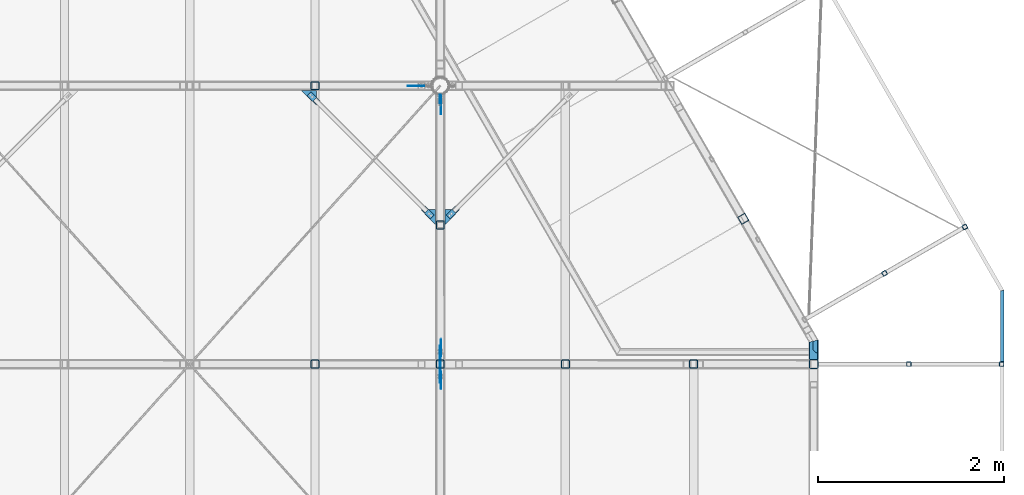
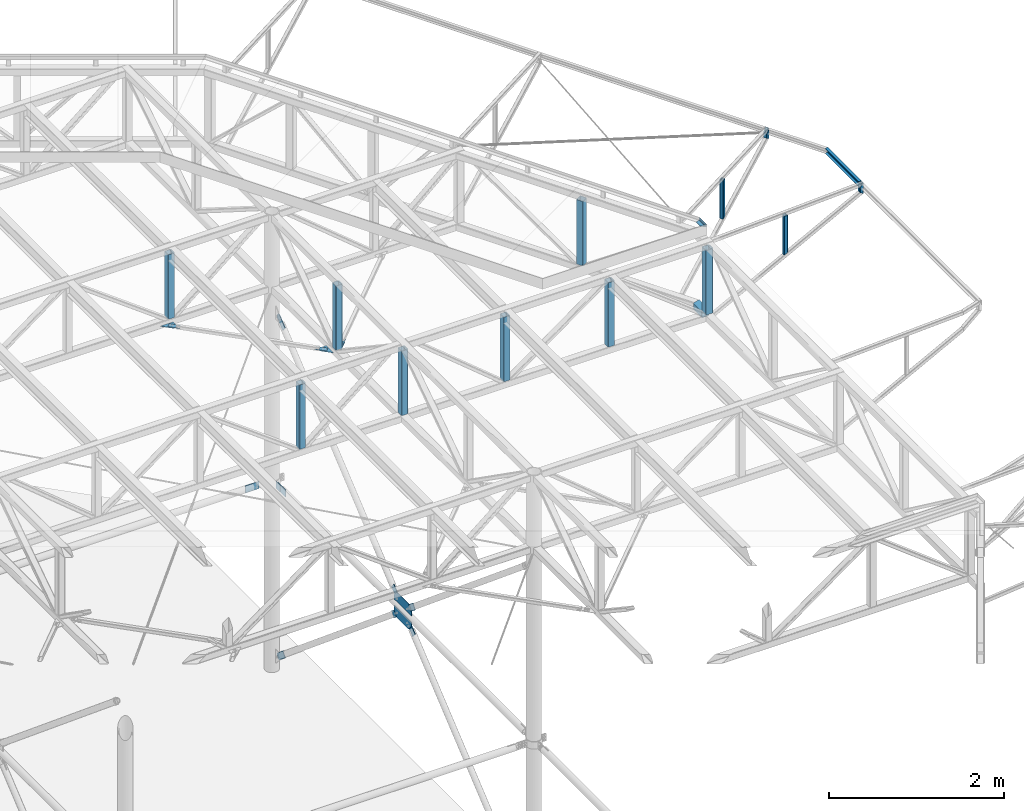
# One storey, part 92 of 132: 32 discrete accessories, 18 elements without a shape of their own.
"""IFC2X3 building model written with IfcOpenShell, lengths in millimetres."""

from ifc_helpers import new_model, si_unit, frame, origin_with_axes, origin_2d_with_axis, place, context, subcontext, project, spatial, polyline, rectangle, hollow_rectangle, l_section, u_section, outline, extrude, boolean, clip, halfspace, material, type_object, element, aggregate, save


model = new_model("IFC2X3")

# Units and contexts
model_context = context("Model", 3, precision=1e-05, world=origin_with_axes())
body_context = subcontext(model_context, "Body", "Model", "MODEL_VIEW")
ifc_project = project(units=[si_unit("LENGTHUNIT", "METRE", prefix="MILLI"), si_unit("AREAUNIT", "SQUARE_METRE"), si_unit("VOLUMEUNIT", "CUBIC_METRE"), si_unit("MASSUNIT", "GRAM", prefix="KILO"), si_unit("TIMEUNIT", "SECOND"), si_unit("PLANEANGLEUNIT", "RADIAN"), si_unit("SOLIDANGLEUNIT", "STERADIAN"), si_unit("THERMODYNAMICTEMPERATUREUNIT", "DEGREE_CELSIUS"), si_unit("LUMINOUSINTENSITYUNIT", "LUMEN")], contexts=[model_context])

# Site, building, storey
site_placement = place(None, origin_with_axes())
site = spatial("IfcSite", under=ifc_project, at=site_placement, Name="Budowa", CompositionType="ELEMENT")
building_placement = place(site_placement, origin_with_axes())
building = spatial("IfcBuilding", under=site, at=building_placement, Name="Undefined", CompositionType="ELEMENT")
storey_placement = place(building_placement, origin_with_axes())
storey = spatial("IfcBuildingStorey", under=building, at=storey_placement, Name="Undefined", CompositionType="ELEMENT", Elevation=0.0)

# Assembly, discrete accessory
assembly_1_placement = place(storey_placement, origin_with_axes())
assembly_1 = element("IfcElementAssembly", 1, at=assembly_1_placement, inside=storey, Name="Steel Assembly", AssemblyPlace="NOTDEFINED", PredefinedType="RIGID_FRAME")
ifc_material = material(Name="STEEL/S235")
discrete_accessory_type_1 = type_object("IfcDiscreteAccessoryType", Name="BLACHA")
discrete_accessory_1_placement = place(assembly_1_placement, frame((20232.9999972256, 17872.0920947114, 10116.0003779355), z_axis=(-1.0, 0.0, 0.0), x_axis=(0.0, -1.0, 0.0)))
discrete_accessory_1 = element("IfcDiscreteAccessory", 2, at=discrete_accessory_1_placement, type_object=discrete_accessory_type_1, material=ifc_material, Name="BLACHA", ObjectType="BL8*100", context=body_context, shape_type="SweptSolid", body=[
    extrude(outline(polyline([(180.0, -50.0), (0.0, -50.0), (0.0, 50.0), (180.0, 50.0), (180.0, -50.0)])), frame((0.0, 0.0, -4.0), z_axis=(0.0, 0.0, 1.0), x_axis=(1.0, 0.0, 0.0)), (0.0, 0.0, 1.0), 8.0),
])

assembly_2_placement = place(storey_placement, origin_with_axes())
assembly_2 = element("IfcElementAssembly", 3, at=assembly_2_placement, inside=storey, Name="Steel Assembly", AssemblyPlace="NOTDEFINED", PredefinedType="RIGID_FRAME")
discrete_accessory_2_placement = place(assembly_2_placement, frame((20224.9999972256, 17902.0043566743, 10066.0003779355), z_axis=(1.0, 0.0, 0.0), x_axis=(0.0, 0.0, 1.0)))
discrete_accessory_2 = element("IfcDiscreteAccessory", 4, at=discrete_accessory_2_placement, type_object=discrete_accessory_type_1, material=ifc_material, Name="BLACHA", ObjectType="BL8*90", context=body_context, shape_type="SweptSolid", body=[
    extrude(outline(polyline([(0.0, 0.0), (100.0, 0.0), (100.0, 89.9122619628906), (0.0, 89.9122619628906), (0.0, 0.0)])), frame((0.0, 0.0, -4.0), z_axis=(0.0, 0.0, 1.0), x_axis=(1.0, 0.0, 0.0)), (0.0, 0.0, 1.0), 8.0),
])
aggregate(assembly_2, [discrete_accessory_2])

assembly_3_placement = place(storey_placement, origin_with_axes())
assembly_3 = element("IfcElementAssembly", 5, at=assembly_3_placement, inside=storey, Name="Steel Assembly", AssemblyPlace="NOTDEFINED", PredefinedType="RIGID_FRAME")
discrete_accessory_3_placement = place(assembly_3_placement, frame((20051.8633056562, 17997.9999994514, 10116.0003779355), z_axis=(0.0, 1.0, 0.0), x_axis=(-1.0, 0.0, 0.0)))
discrete_accessory_3 = element("IfcDiscreteAccessory", 6, at=discrete_accessory_3_placement, type_object=discrete_accessory_type_1, material=ifc_material, Name="BLACHA", ObjectType="BL8*100", context=body_context, shape_type="SweptSolid", body=[
    extrude(outline(polyline([(180.0, -50.0), (0.0, -50.0), (0.0, 50.0), (180.0, 50.0), (180.0, -50.0)])), frame((0.0, 0.0, -4.0), z_axis=(0.0, 0.0, 1.0), x_axis=(1.0, 0.0, 0.0)), (0.0, 0.0, 1.0), 8.0),
])
aggregate(assembly_3, [discrete_accessory_3])

assembly_4_placement = place(storey_placement, origin_with_axes())
assembly_4 = element("IfcElementAssembly", 7, at=assembly_4_placement, inside=storey, Name="Steel Assembly", AssemblyPlace="NOTDEFINED", PredefinedType="RIGID_FRAME")
discrete_accessory_4_placement = place(assembly_4_placement, frame((20232.9999999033, 14913.7701705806, 9988.42276100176), z_axis=(1.0, 0.0, 0.0), x_axis=(0.0, 0.091855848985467, 0.995772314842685)))
discrete_accessory_4 = element("IfcDiscreteAccessory", 8, at=discrete_accessory_4_placement, type_object=discrete_accessory_type_1, material=ifc_material, Name="BLACHA", ObjectType="BL8*86", context=body_context, shape_type="SweptSolid", body=[
    extrude(outline(polyline([(0.0, 0.0), (28.2842712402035, 3.27418092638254e-11), (60.8111839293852, 32.5269126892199), (60.8111839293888, 60.8111839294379), (-59.3969688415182, 181.019332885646), (-120.20815277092, 120.208152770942), (0.0, 0.0)])), frame((0.0, 0.0, -4.0), z_axis=(0.0, 0.0, 1.0), x_axis=(1.0, 0.0, 0.0)), (0.0, 0.0, 1.0), 8.0),
])
aggregate(assembly_4, [discrete_accessory_4])

assembly_5_placement = place(storey_placement, origin_with_axes())
assembly_5 = element("IfcElementAssembly", 9, at=assembly_5_placement, inside=storey, Name="Steel Assembly", AssemblyPlace="NOTDEFINED", PredefinedType="RIGID_FRAME")
discrete_accessory_5_placement = place(assembly_5_placement, frame((20232.9999999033, 15141.2002103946, 10054.562716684), z_axis=(1.0, 0.0, 0.0), x_axis=(0.0, -0.995772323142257, -0.0918557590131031)))
discrete_accessory_5 = element("IfcDiscreteAccessory", 10, at=discrete_accessory_5_placement, type_object=discrete_accessory_type_1, material=ifc_material, Name="BLACHA", ObjectType="BL8*86", context=body_context, shape_type="SweptSolid", body=[
    extrude(outline(polyline([(0.0, 0.0), (28.2842712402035, 3.27418092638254e-11), (60.8111839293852, 32.5269126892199), (60.8111839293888, 60.8111839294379), (-59.3969688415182, 181.019332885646), (-120.20815277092, 120.208152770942), (0.0, 0.0)])), frame((0.0, 0.0, -4.0), z_axis=(0.0, 0.0, 1.0), x_axis=(1.0, 0.0, 0.0)), (0.0, 0.0, 1.0), 8.0),
])

# Discrete accessory
discrete_accessory_6_placement = place(assembly_1_placement, frame((20224.9999992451, 15198.2308805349, 10072.3460259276), z_axis=(1.0, 0.0, 0.0), x_axis=(0.0, -1.0, 0.0)))
discrete_accessory_6 = element("IfcDiscreteAccessory", 11, at=discrete_accessory_6_placement, type_object=discrete_accessory_type_1, material=ifc_material, Name="BLACHA", ObjectType="BL8*133", context=body_context, shape_type="SweptSolid", body=[
    extrude(outline(polyline([(0.0, 0.0), (396.459625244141, 0.0), (396.459625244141, 58.6795501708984), (335.099731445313, 132.510192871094), (61.3598861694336, 132.510192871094), (0.0, 58.6795463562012), (0.0, 0.0)])), frame((0.0, 0.0, -4.0), z_axis=(0.0, 0.0, 1.0), x_axis=(1.0, 0.0, 0.0)), (0.0, 0.0, 1.0), 8.0),
])

# Assembly, discrete accessory
assembly_6_placement = place(storey_placement, origin_with_axes())
assembly_6 = element("IfcElementAssembly", 12, at=assembly_6_placement, inside=storey, Name="Steel Assembly", AssemblyPlace="NOTDEFINED", PredefinedType="RIGID_FRAME")
discrete_accessory_7_placement = place(assembly_6_placement, frame((20233.0000000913, 15086.2326258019, 10243.5779952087), z_axis=(1.0, 0.0, 0.0), x_axis=(0.0, -0.0918558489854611, -0.995772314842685)))
discrete_accessory_7 = element("IfcDiscreteAccessory", 13, at=discrete_accessory_7_placement, type_object=discrete_accessory_type_1, material=ifc_material, Name="BLACHA", ObjectType="BL8*86", context=body_context, shape_type="SweptSolid", body=[
    extrude(outline(polyline([(0.0, 0.0), (28.2842712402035, 3.27418092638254e-11), (60.8111839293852, 32.5269126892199), (60.8111839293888, 60.8111839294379), (-59.3969688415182, 181.019332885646), (-120.20815277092, 120.208152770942), (0.0, 0.0)])), frame((0.0, 0.0, -4.0), z_axis=(0.0, 0.0, 1.0), x_axis=(1.0, 0.0, 0.0)), (0.0, 0.0, 1.0), 8.0),
])

assembly_7_placement = place(storey_placement, origin_with_axes())
assembly_7 = element("IfcElementAssembly", 14, at=assembly_7_placement, inside=storey, Name="Steel Assembly", AssemblyPlace="NOTDEFINED", PredefinedType="RIGID_FRAME")
discrete_accessory_8_placement = place(assembly_7_placement, frame((20233.0000000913, 14858.8013366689, 10177.4380410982), z_axis=(1.0, 0.0, 0.0), x_axis=(0.0, 0.995772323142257, 0.0918557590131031)))
discrete_accessory_8 = element("IfcDiscreteAccessory", 15, at=discrete_accessory_8_placement, type_object=discrete_accessory_type_1, material=ifc_material, Name="BLACHA", ObjectType="BL8*86", context=body_context, shape_type="SweptSolid", body=[
    extrude(outline(polyline([(0.0, 0.0), (28.2842712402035, 3.27418092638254e-11), (60.8111839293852, 32.5269126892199), (60.8111839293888, 60.8111839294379), (-59.3969688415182, 181.019332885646), (-120.20815277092, 120.208152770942), (0.0, 0.0)])), frame((0.0, 0.0, -4.0), z_axis=(0.0, 0.0, 1.0), x_axis=(1.0, 0.0, 0.0)), (0.0, 0.0, 1.0), 8.0),
])
aggregate(assembly_7, [discrete_accessory_8])

# Discrete accessory
discrete_accessory_9_placement = place(assembly_1_placement, frame((20224.9999994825, 14801.7706639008, 10159.6547299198), z_axis=(1.0, 0.0, 0.0), x_axis=(0.0, 1.0, 0.0)))
discrete_accessory_9 = element("IfcDiscreteAccessory", 16, at=discrete_accessory_9_placement, type_object=discrete_accessory_type_1, material=ifc_material, Name="BLACHA", ObjectType="BL8*133", context=body_context, shape_type="SweptSolid", body=[
    extrude(outline(polyline([(0.0, 0.0), (396.460845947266, 0.0), (396.460845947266, 58.6795501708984), (335.100982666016, 132.510192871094), (61.3598861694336, 132.510192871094), (0.0, 58.6795463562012), (0.0, 0.0)])), frame((0.0, 0.0, -4.0), z_axis=(0.0, 0.0, 1.0), x_axis=(1.0, 0.0, 0.0)), (0.0, 0.0, 1.0), 8.0),
])

aggregate(assembly_1, [discrete_accessory_1, discrete_accessory_6, discrete_accessory_9])

discrete_accessory_10_placement = place(assembly_5_placement, frame((20233.0000000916, 17879.0487899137, 7723.25304714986), z_axis=(0.0, 0.639165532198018, 0.76906919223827), x_axis=(0.0, -0.76906919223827, 0.639165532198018)))
discrete_accessory_10 = element("IfcDiscreteAccessory", 17, at=discrete_accessory_10_placement, type_object=discrete_accessory_type_1, material=ifc_material, Name="BLACHA", ObjectType="BL8*86", context=body_context, shape_type="CSG", body=[
    boolean("DIFFERENCE", boolean("DIFFERENCE", extrude(rectangle(XDim=8.0, YDim=86.0, at=origin_2d_with_axis()), frame((190.000000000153, -3.63797880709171e-12, 3.30513394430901e-13), z_axis=(-1.0, 0.0, 0.0), x_axis=(0.0, -1.0, 0.0)), (0.0, 0.0, 1.0), 190.0), extrude(outline(polyline([(0.0, 0.0), (20.0000000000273, -3.63797880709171e-12), (5.45696821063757e-12, 20.0000000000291), (0.0, 0.0)])), frame((3.63797880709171e-12, -6.49999986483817, 43.0), z_axis=(0.0, 1.0, 0.0), x_axis=(1.0, 0.0, 0.0)), (0.0, 0.0, 1.0), 13.0)), extrude(outline(polyline([(0.0, 0.0), (20.0000000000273, -3.63797880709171e-12), (5.45696821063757e-12, 20.0000000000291), (0.0, 0.0)])), frame((0.0, 6.50000013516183, -43.0), z_axis=(0.0, -1.0, 0.0), x_axis=(1.0, 0.0, 0.0)), (0.0, 0.0, 1.0), 13.0)),
])

aggregate(assembly_5, [discrete_accessory_5, discrete_accessory_10])

discrete_accessory_11_placement = place(assembly_6_placement, frame((20233.0000000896, 17879.0487906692, 12508.7467522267), z_axis=(0.0, -0.639165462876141, 0.769069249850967), x_axis=(0.0, -0.769069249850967, -0.639165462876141)))
discrete_accessory_11 = element("IfcDiscreteAccessory", 18, at=discrete_accessory_11_placement, type_object=discrete_accessory_type_1, material=ifc_material, Name="BLACHA", ObjectType="BL8*86", context=body_context, shape_type="CSG", body=[
    boolean("DIFFERENCE", boolean("DIFFERENCE", extrude(rectangle(XDim=8.0, YDim=86.0, at=origin_2d_with_axis()), frame((190.000000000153, -3.63797880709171e-12, 3.30513394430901e-13), z_axis=(-1.0, 0.0, 0.0), x_axis=(0.0, -1.0, 0.0)), (0.0, 0.0, 1.0), 190.0), extrude(outline(polyline([(0.0, 0.0), (20.0000000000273, -3.63797880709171e-12), (5.45696821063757e-12, 20.0000000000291), (0.0, 0.0)])), frame((0.0, 6.50000013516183, -43.0), z_axis=(0.0, -1.0, 0.0), x_axis=(1.0, 0.0, 0.0)), (0.0, 0.0, 1.0), 13.0)), extrude(outline(polyline([(0.0, 0.0), (20.0000000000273, -3.63797880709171e-12), (5.45696821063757e-12, 20.0000000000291), (0.0, 0.0)])), frame((3.63797880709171e-12, -6.49999986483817, 43.0), z_axis=(0.0, 1.0, 0.0), x_axis=(1.0, 0.0, 0.0)), (0.0, 0.0, 1.0), 13.0)),
])

aggregate(assembly_6, [discrete_accessory_7, discrete_accessory_11])

# Assembly, discrete accessory
assembly_8_placement = place(storey_placement, origin_with_axes())
assembly_8 = element("IfcElementAssembly", 19, at=assembly_8_placement, inside=storey, Name="Steel Assembly", AssemblyPlace="NOTDEFINED", PredefinedType="RIGID_FRAME")
discrete_accessory_12_placement = place(assembly_8_placement, frame((20387.9949512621, 16705.4213581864, 12830.0), z_axis=(0.0, 0.0, 1.0), x_axis=(-0.70710678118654, -0.707106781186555, 0.0)))
discrete_accessory_12 = element("IfcDiscreteAccessory", 20, at=discrete_accessory_12_placement, type_object=discrete_accessory_type_1, material=ifc_material, Name="BLACHA", ObjectType="BL6*60", context=body_context, shape_type="SweptSolid", body=[
    extrude(outline(polyline([(0.0, 0.0), (139.99999999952, -6.2755134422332e-10), (139.99999999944, 59.9999999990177), (0.0, 60.0), (-8.00355337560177e-11, 54.9999999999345), (49.9999999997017, 54.9999999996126), (49.9999999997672, 4.99999999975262), (-8.73114913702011e-11, 5.00000000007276), (0.0, 0.0)])), frame((0.0, 0.0, -3.0), z_axis=(0.0, 0.0, 1.0), x_axis=(1.0, 0.0, 0.0)), (0.0, 0.0, 1.0), 6.0),
])
aggregate(assembly_8, [discrete_accessory_12])

assembly_9_placement = place(storey_placement, origin_with_axes())
assembly_9 = element("IfcElementAssembly", 21, at=assembly_9_placement, inside=storey, Name="Steel Assembly", AssemblyPlace="NOTDEFINED", PredefinedType="RIGID_FRAME")
discrete_accessory_13_placement = place(assembly_9_placement, frame((20275.0, 16666.5304833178, 12824.0), z_axis=(0.0, 0.0, 1.0), x_axis=(0.0, -1.0, 0.0)))
discrete_accessory_13 = element("IfcDiscreteAccessory", 22, at=discrete_accessory_13_placement, type_object=discrete_accessory_type_1, material=ifc_material, Name="BLACHA", ObjectType="BL6*117", context=body_context, shape_type="SweptSolid", body=[
    extrude(outline(polyline([(0.0, 0.0), (166.027954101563, 0.0), (49.4974746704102, 116.530487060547), (0.0, 67.0330123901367), (0.0, 0.0)])), frame((0.0, 0.0, -3.0), z_axis=(0.0, 0.0, 1.0), x_axis=(1.0, 0.0, 0.0)), (0.0, 0.0, 1.0), 6.0),
])

assembly_10_placement = place(storey_placement, origin_with_axes())
assembly_10 = element("IfcElementAssembly", 23, at=assembly_10_placement, inside=storey, Name="Steel Assembly", AssemblyPlace="NOTDEFINED", PredefinedType="RIGID_FRAME")
discrete_accessory_14_placement = place(assembly_10_placement, frame((18930.4213581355, 17837.0050487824, 12830.0), z_axis=(0.0, 0.0, 1.0), x_axis=(-0.707106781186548, 0.707106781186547, 0.0)))
discrete_accessory_14 = element("IfcDiscreteAccessory", 24, at=discrete_accessory_14_placement, type_object=discrete_accessory_type_1, material=ifc_material, Name="BLACHA", ObjectType="BL6*60", context=body_context, shape_type="SweptSolid", body=[
    extrude(outline(polyline([(0.0, 0.0), (139.99999999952, -6.2755134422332e-10), (139.99999999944, 59.9999999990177), (0.0, 60.0), (-8.00355337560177e-11, 54.9999999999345), (49.9999999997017, 54.9999999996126), (49.9999999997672, 4.99999999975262), (-8.73114913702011e-11, 5.00000000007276), (0.0, 0.0)])), frame((0.0, 0.0, -3.0), z_axis=(0.0, 0.0, 1.0), x_axis=(1.0, 0.0, 0.0)), (0.0, 0.0, 1.0), 6.0),
])

assembly_11_placement = place(storey_placement, origin_with_axes())
assembly_11 = element("IfcElementAssembly", 25, at=assembly_11_placement, inside=storey, Name="Steel Assembly", AssemblyPlace="NOTDEFINED", PredefinedType="RIGID_FRAME")
discrete_accessory_15_placement = place(assembly_11_placement, frame((18891.530483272, 17950.000000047, 12824.0), z_axis=(0.0, 0.0, 1.0), x_axis=(-1.0, 0.0, 0.0)))
discrete_accessory_15 = element("IfcDiscreteAccessory", 26, at=discrete_accessory_15_placement, type_object=discrete_accessory_type_1, material=ifc_material, Name="BLACHA", ObjectType="BL6*117", context=body_context, shape_type="SweptSolid", body=[
    extrude(outline(polyline([(0.0, 0.0), (166.027954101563, 0.0), (49.4974746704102, 116.530487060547), (0.0, 67.0330123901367), (0.0, 0.0)])), frame((0.0, 0.0, -3.0), z_axis=(0.0, 0.0, 1.0), x_axis=(1.0, 0.0, 0.0)), (0.0, 0.0, 1.0), 6.0),
])

# Discrete accessory
discrete_accessory_16_placement = place(assembly_10_placement, frame((20019.5786418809, 16662.994951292, 12830.0), z_axis=(0.0, 0.0, 1.0), x_axis=(0.707106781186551, -0.707106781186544, 0.0)))
discrete_accessory_16 = element("IfcDiscreteAccessory", 27, at=discrete_accessory_16_placement, type_object=discrete_accessory_type_1, material=ifc_material, Name="BLACHA", ObjectType="BL6*60", context=body_context, shape_type="SweptSolid", body=[
    extrude(outline(polyline([(0.0, 0.0), (139.99999999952, -6.2755134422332e-10), (139.99999999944, 59.9999999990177), (0.0, 60.0), (-8.00355337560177e-11, 54.9999999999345), (49.9999999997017, 54.9999999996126), (49.9999999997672, 4.99999999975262), (-8.73114913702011e-11, 5.00000000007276), (0.0, 0.0)])), frame((0.0, 0.0, -3.0), z_axis=(0.0, 0.0, 1.0), x_axis=(1.0, 0.0, 0.0)), (0.0, 0.0, 1.0), 6.0),
])

aggregate(assembly_10, [discrete_accessory_14, discrete_accessory_16])

discrete_accessory_17_placement = place(assembly_9_placement, frame((20175.0, 16500.502525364, 12824.0), z_axis=(0.0, 0.0, 1.0), x_axis=(0.0, 1.0, 0.0)))
discrete_accessory_17 = element("IfcDiscreteAccessory", 28, at=discrete_accessory_17_placement, type_object=discrete_accessory_type_1, material=ifc_material, Name="BLACHA", ObjectType="BL6*117", context=body_context, shape_type="SweptSolid", body=[
    extrude(outline(polyline([(0.0, 0.0), (166.027954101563, 0.0), (166.027954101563, 67.0330123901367), (116.530487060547, 116.530487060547), (0.0, 0.0)])), frame((0.0, 0.0, -3.0), z_axis=(0.0, 0.0, 1.0), x_axis=(1.0, 0.0, 0.0)), (0.0, 0.0, 1.0), 6.0),
])

# Assembly, discrete accessory
assembly_12_placement = place(storey_placement, origin_with_axes())
assembly_12 = element("IfcElementAssembly", 29, at=assembly_12_placement, inside=storey, Name="Steel Assembly", AssemblyPlace="NOTDEFINED", PredefinedType="RIGID_FRAME")
discrete_accessory_type_2 = type_object("IfcDiscreteAccessoryType", Name="BEAM")
discrete_accessory_18_placement = place(assembly_12_placement, frame((24270.0003571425, 15094.8000000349, 14004.0), z_axis=(-1.0, 0.0, 0.0), x_axis=(0.0, 1.0, 0.0)))
discrete_accessory_18 = element("IfcDiscreteAccessory", 30, at=discrete_accessory_18_placement, type_object=discrete_accessory_type_2, material=ifc_material, Name="BEAM", ObjectType="L60*40*6", context=body_context, shape_type="Clipping", body=[
    clip(clip(extrude(l_section(Depth=60.0, Width=40.0, Thickness=6.0, FilletRadius=6.0, EdgeRadius=3.0, at=origin_2d_with_axis()), frame((192.612563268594, 0.0, 0.0), z_axis=(-1.0, 0.0, 0.0), x_axis=(0.0, -1.0, 0.0)), (0.0, 0.0, 1.0), 191.98), halfspace(frame((151.205719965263, 0.0, 29.99999999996), z_axis=(-0.965927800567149, 0.0, -0.258811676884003), x_axis=(0.0, -1.0, 0.0)), True)), halfspace(frame((58.9999999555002, 0.0, 30.0), z_axis=(-0.768221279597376, 0.0, 0.64018439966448), x_axis=(0.0, -1.0, 0.0)), False)),
])
aggregate(assembly_12, [discrete_accessory_18])

assembly_13_placement = place(storey_placement, origin_with_axes())
assembly_13 = element("IfcElementAssembly", 31, at=assembly_13_placement, inside=storey, Name="Steel Assembly", AssemblyPlace="NOTDEFINED", PredefinedType="RIGID_FRAME")
discrete_accessory_19_placement = place(assembly_13_placement, frame((26280.0003814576, 15025.0000000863, 13945.0050191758), z_axis=(0.0, 0.0, -1.0), x_axis=(0.0, 1.0, 0.0)))
discrete_accessory_19 = element("IfcDiscreteAccessory", 32, at=discrete_accessory_19_placement, type_object=discrete_accessory_type_2, material=ifc_material, Name="BEAM", ObjectType="C70*40*4", context=body_context, shape_type="Clipping", body=[
    clip(extrude(u_section(Depth=70.0, FlangeWidth=40.0, WebThickness=4.0, FlangeThickness=4.0, FilletRadius=6.0, at=origin_2d_with_axis()), frame((773.062307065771, 0.0, 0.0), z_axis=(-1.0, 0.0, 0.0), x_axis=(0.0, -1.0, 0.0)), (0.0, 0.0, 1.0), 773.06), halfspace(frame((773.008721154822, 20.0, 0.0), z_axis=(0.965930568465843, -0.258801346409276, 0.0), x_axis=(0.0, 0.0, -1.0)), False)),
])
aggregate(assembly_13, [discrete_accessory_19])

# Assembly, discrete accessories
assembly_14_placement = place(storey_placement, origin_with_axes())
assembly_14 = element("IfcElementAssembly", 33, at=assembly_14_placement, inside=storey, Name="Steel Assembly", AssemblyPlace="NOTDEFINED", PredefinedType="RIGID_FRAME")
discrete_accessory_20_placement = place(assembly_14_placement, frame((25012.4609035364, 15978.1510362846, 13878.94002838), z_axis=(-0.499969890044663, 0.866042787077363, 0.0), x_axis=(0.0, 0.0, -1.0)))
discrete_accessory_20 = element("IfcDiscreteAccessory", 34, at=discrete_accessory_20_placement, type_object=discrete_accessory_type_2, material=ifc_material, Name="BEAM", ObjectType="SHS50*4", context=body_context, shape_type="Clipping", body=[
    clip(clip(extrude(hollow_rectangle(XDim=50.0, YDim=50.0, WallThickness=4.0, InnerFilletRadius=4.0, OuterFilletRadius=8.0, at=origin_2d_with_axis()), frame((545.085010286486, 0.0, 0.0), z_axis=(-1.0, 0.0, 0.0), x_axis=(0.0, -1.0, 0.0)), (0.0, 0.0, 1.0), 559.36), halfspace(frame((536.667324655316, 11.6203888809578, 999.999999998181), z_axis=(-0.885407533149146, 0.464815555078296, 0.0), x_axis=(-0.464815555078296, -0.885407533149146, 0.0)), True)), halfspace(frame((0.185048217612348, -1.24844042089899, 999.999999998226), z_axis=(0.998752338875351, -0.0499376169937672, 0.0), x_axis=(0.0499376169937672, 0.998752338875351, 0.0)), True)),
])
discrete_accessory_21_placement = place(assembly_14_placement, frame((25878.5036906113, 16478.1209263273, 13979.9998397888), z_axis=(-0.499969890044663, 0.866042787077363, 0.0), x_axis=(0.0, 0.0, -1.0)))
discrete_accessory_21 = element("IfcDiscreteAccessory", 35, at=discrete_accessory_21_placement, type_object=discrete_accessory_type_2, material=ifc_material, Name="BEAM", ObjectType="SHS50*4", context=body_context, shape_type="Clipping", body=[
    clip(clip(extrude(hollow_rectangle(XDim=50.0, YDim=50.0, WallThickness=4.0, InnerFilletRadius=4.0, OuterFilletRadius=8.0, at=origin_2d_with_axis()), frame((176.695154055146, 0.0, 0.0), z_axis=(-1.0, 0.0, 0.0), x_axis=(0.0, -1.0, 0.0)), (0.0, 0.0, 1.0), 192.23), halfspace(frame((149.999998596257, -25.0000000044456, 4.06544131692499e-09), z_axis=(0.855808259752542, 0.517293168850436, 0.0), x_axis=(0.0, 0.0, 1.0)), False)), halfspace(frame((-0.00517941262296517, -25.0000000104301, 1.04982973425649e-08), z_axis=(-0.689225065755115, 0.724547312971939, 0.0), x_axis=(0.0, 0.0, -1.0)), False)),
])
aggregate(assembly_14, [discrete_accessory_20, discrete_accessory_21])

assembly_15_placement = place(storey_placement, origin_with_axes())
assembly_15 = element("IfcElementAssembly", 36, at=assembly_15_placement, inside=storey, Name="Steel Assembly", AssemblyPlace="NOTDEFINED", PredefinedType="RIGID_FRAME")
discrete_accessory_22_placement = place(assembly_15_placement, frame((25275.0003814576, 15000.0000000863, 13878.9400283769), z_axis=(0.0, 1.0, 0.0), x_axis=(0.0, 0.0, -1.0)))
discrete_accessory_22 = element("IfcDiscreteAccessory", 37, at=discrete_accessory_22_placement, type_object=discrete_accessory_type_2, material=ifc_material, Name="BEAM", ObjectType="SHS50*4", context=body_context, shape_type="Clipping", body=[
    clip(clip(extrude(hollow_rectangle(XDim=50.0, YDim=50.0, WallThickness=4.0, InnerFilletRadius=4.0, OuterFilletRadius=8.0, at=origin_2d_with_axis()), frame((545.085010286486, 0.0, 0.0), z_axis=(-1.0, 0.0, 0.0), x_axis=(0.0, -1.0, 0.0)), (0.0, 0.0, 1.0), 559.36), halfspace(frame((536.667324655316, 11.6203888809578, 999.999999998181), z_axis=(-0.885407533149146, 0.464815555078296, 0.0), x_axis=(-0.464815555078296, -0.885407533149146, 0.0)), True)), halfspace(frame((0.185048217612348, -1.24844042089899, 999.999999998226), z_axis=(0.998752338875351, -0.0499376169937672, 0.0), x_axis=(0.0499376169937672, 0.998752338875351, 0.0)), True)),
])
discrete_accessory_23_placement = place(assembly_15_placement, frame((26275.0003814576, 15000.0000000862, 13979.9998397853), z_axis=(0.0, 1.0, 0.0), x_axis=(0.0, 0.0, -1.0)))
discrete_accessory_23 = element("IfcDiscreteAccessory", 38, at=discrete_accessory_23_placement, type_object=discrete_accessory_type_2, material=ifc_material, Name="BEAM", ObjectType="SHS50*4", context=body_context, shape_type="Clipping", body=[
    clip(clip(extrude(hollow_rectangle(XDim=50.0, YDim=50.0, WallThickness=4.0, InnerFilletRadius=4.0, OuterFilletRadius=8.0, at=origin_2d_with_axis()), frame((176.695154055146, 0.0, 0.0), z_axis=(-1.0, 0.0, 0.0), x_axis=(0.0, -1.0, 0.0)), (0.0, 0.0, 1.0), 192.23), halfspace(frame((149.999998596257, -25.0000000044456, 4.06544131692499e-09), z_axis=(0.855808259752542, 0.517293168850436, 0.0), x_axis=(0.0, 0.0, 1.0)), False)), halfspace(frame((-0.00517941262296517, -25.0000000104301, 1.04982973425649e-08), z_axis=(-0.689225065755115, 0.724547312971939, 0.0), x_axis=(0.0, 0.0, -1.0)), False)),
])
aggregate(assembly_15, [discrete_accessory_22, discrete_accessory_23])

assembly_16_placement = place(storey_placement, origin_with_axes())
assembly_16 = element("IfcElementAssembly", 39, at=assembly_16_placement, inside=storey, Name="Steel Assembly", AssemblyPlace="NOTDEFINED", PredefinedType="RIGID_FRAME")
discrete_accessory_24_placement = place(assembly_16_placement, frame((23489.6987886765, 16565.5651198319, 12880.0), z_axis=(0.0, 0.0, 1.0), x_axis=(0.5000000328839, -0.866025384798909, 0.0)))
discrete_accessory_24 = element("IfcDiscreteAccessory", 40, at=discrete_accessory_24_placement, type_object=discrete_accessory_type_2, material=ifc_material, Name="BEAM", ObjectType="SHS90*4", context=body_context, shape_type="Clipping", body=[
    clip(clip(extrude(hollow_rectangle(XDim=90.0, YDim=90.0, WallThickness=4.0, InnerFilletRadius=4.0, OuterFilletRadius=8.0, at=origin_2d_with_axis()), frame((0.0, 0.0, 900.0), z_axis=(0.0, 0.0, -1.0), x_axis=(0.0, 1.0, 0.0)), (0.0, 0.0, 1.0), 900.0), halfspace(frame((1000.0, 0.0, 900.0), z_axis=(0.0, 0.0, -1.0), x_axis=(0.0, 1.0, 0.0)), True)), halfspace(frame((1000.0, 0.0, 0.0), z_axis=(0.0, 0.0, 1.0), x_axis=(0.0, -1.0, 0.0)), True)),
])
discrete_accessory_25_placement = place(assembly_16_placement, frame((24250.000107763, 15262.0821808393, 12830.0), z_axis=(1.0, 0.0, 0.0), x_axis=(0.0, -1.0, 0.0)))
discrete_accessory_25 = element("IfcDiscreteAccessory", 41, at=discrete_accessory_25_placement, type_object=discrete_accessory_type_2, material=ifc_material, Name="BEAM", ObjectType="SHS100*8", context=body_context, shape_type="Clipping", body=[
    clip(extrude(hollow_rectangle(XDim=100.0, YDim=100.0, WallThickness=8.0, InnerFilletRadius=8.0, OuterFilletRadius=16.0, at=origin_2d_with_axis()), frame((212.282180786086, 0.0, 0.0), z_axis=(-1.0, 0.0, 0.0), x_axis=(0.0, -1.0, 0.0)), (0.0, 0.0, 1.0), 212.42), halfspace(frame((26.7949198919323, 0.0, -50.0000000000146), z_axis=(0.965925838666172, 0.0, 0.258818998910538), x_axis=(0.0, -1.0, 0.0)), True)),
])
aggregate(assembly_16, [discrete_accessory_24, discrete_accessory_25])

assembly_17_placement = place(storey_placement, origin_with_axes())
assembly_17 = element("IfcElementAssembly", 42, at=assembly_17_placement, inside=storey, Name="Steel Assembly", AssemblyPlace="NOTDEFINED", PredefinedType="RIGID_FRAME")
discrete_accessory_26_placement = place(assembly_17_placement, frame((21573.9, 15000.000000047, 13780.0), z_axis=(-1.0, 0.0, 0.0), x_axis=(0.0, 0.0, -1.0)))
discrete_accessory_26 = element("IfcDiscreteAccessory", 43, at=discrete_accessory_26_placement, type_object=discrete_accessory_type_2, material=ifc_material, Name="BEAM", ObjectType="SHS90*6", context=body_context, shape_type="Clipping", body=[
    clip(clip(extrude(hollow_rectangle(XDim=90.0, YDim=90.0, WallThickness=6.0, InnerFilletRadius=6.0, OuterFilletRadius=12.0, at=origin_2d_with_axis()), frame((900.0, 0.0, 0.0), z_axis=(-1.0, 0.0, 0.0), x_axis=(0.0, -1.0, 0.0)), (0.0, 0.0, 1.0), 900.0), halfspace(frame((900.0, 0.0, 1000.0), z_axis=(-1.0, 0.0, 0.0), x_axis=(0.0, -1.0, 0.0)), True)), halfspace(frame((0.0, 0.0, 1000.0), z_axis=(1.0, 0.0, 0.0), x_axis=(0.0, 1.0, 0.0)), True)),
])
discrete_accessory_27_placement = place(assembly_17_placement, frame((22954.9, 15000.000000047, 13780.0), z_axis=(-1.0, 0.0, 0.0), x_axis=(0.0, 0.0, -1.0)))
discrete_accessory_27 = element("IfcDiscreteAccessory", 44, at=discrete_accessory_27_placement, type_object=discrete_accessory_type_2, material=ifc_material, Name="BEAM", ObjectType="SHS90*6", context=body_context, shape_type="Clipping", body=[
    clip(clip(extrude(hollow_rectangle(XDim=90.0, YDim=90.0, WallThickness=6.0, InnerFilletRadius=6.0, OuterFilletRadius=12.0, at=origin_2d_with_axis()), frame((900.0, 0.0, 0.0), z_axis=(-1.0, 0.0, 0.0), x_axis=(0.0, -1.0, 0.0)), (0.0, 0.0, 1.0), 900.0), halfspace(frame((900.0, 0.0, 1000.0), z_axis=(-1.0, 0.0, 0.0), x_axis=(0.0, -1.0, 0.0)), True)), halfspace(frame((0.0, 0.0, 1000.0), z_axis=(1.0, 0.0, 0.0), x_axis=(0.0, 1.0, 0.0)), True)),
])
discrete_accessory_28_placement = place(assembly_17_placement, frame((24249.9, 15000.000000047, 13780.0), z_axis=(-1.0, 0.0, 0.0), x_axis=(0.0, 0.0, -1.0)))
discrete_accessory_28 = element("IfcDiscreteAccessory", 45, at=discrete_accessory_28_placement, type_object=discrete_accessory_type_2, material=ifc_material, Name="BEAM", ObjectType="SHS100*8", context=body_context, shape_type="Clipping", body=[
    clip(clip(extrude(hollow_rectangle(XDim=100.0, YDim=100.0, WallThickness=8.0, InnerFilletRadius=8.0, OuterFilletRadius=16.0, at=origin_2d_with_axis()), frame((900.0, 0.0, 0.0), z_axis=(-1.0, 0.0, 0.0), x_axis=(0.0, -1.0, 0.0)), (0.0, 0.0, 1.0), 900.0), halfspace(frame((900.0, 0.0, 1000.0), z_axis=(-1.0, 0.0, 0.0), x_axis=(0.0, -1.0, 0.0)), True)), halfspace(frame((0.0, 0.0, 1000.0), z_axis=(1.0, 0.0, 0.0), x_axis=(0.0, 1.0, 0.0)), True)),
])
aggregate(assembly_17, [discrete_accessory_26, discrete_accessory_27, discrete_accessory_28])

# Assembly, discrete accessory
assembly_18_placement = place(storey_placement, origin_with_axes())
assembly_18 = element("IfcElementAssembly", 46, at=assembly_18_placement, inside=storey, Name="Steel Assembly", AssemblyPlace="NOTDEFINED", PredefinedType="RIGID_FRAME")
discrete_accessory_29_placement = place(assembly_18_placement, frame((18874.9999999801, 15000.0000000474, 13780.0), z_axis=(0.0, -1.0, 0.0), x_axis=(0.0, 0.0, -1.0)))
discrete_accessory_29 = element("IfcDiscreteAccessory", 47, at=discrete_accessory_29_placement, type_object=discrete_accessory_type_2, material=ifc_material, Name="BEAM", ObjectType="SHS90*6", context=body_context, shape_type="Clipping", body=[
    clip(clip(extrude(hollow_rectangle(XDim=90.0, YDim=90.0, WallThickness=6.0, InnerFilletRadius=6.0, OuterFilletRadius=12.0, at=origin_2d_with_axis()), frame((900.0, 0.0, 0.0), z_axis=(-1.0, 0.0, 0.0), x_axis=(0.0, -1.0, 0.0)), (0.0, 0.0, 1.0), 900.0), halfspace(frame((900.0, 0.0, 1000.0), z_axis=(-1.0, 0.0, 0.0), x_axis=(0.0, -1.0, 0.0)), True)), halfspace(frame((0.0, 0.0, 1000.0), z_axis=(1.0, 0.0, 0.0), x_axis=(0.0, 1.0, 0.0)), True)),
])
aggregate(assembly_18, [discrete_accessory_29])

# Discrete accessory
discrete_accessory_30_placement = place(assembly_9_placement, frame((20225.0, 16500.000000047, 13780.0), z_axis=(1.0, 0.0, 0.0), x_axis=(0.0, 0.0, -1.0)))
discrete_accessory_30 = element("IfcDiscreteAccessory", 48, at=discrete_accessory_30_placement, type_object=discrete_accessory_type_2, material=ifc_material, Name="BEAM", ObjectType="SHS90*6", context=body_context, shape_type="Clipping", body=[
    clip(clip(extrude(hollow_rectangle(XDim=90.0, YDim=90.0, WallThickness=6.0, InnerFilletRadius=6.0, OuterFilletRadius=12.0, at=origin_2d_with_axis()), frame((900.0, 0.0, 0.0), z_axis=(-1.0, 0.0, 0.0), x_axis=(0.0, -1.0, 0.0)), (0.0, 0.0, 1.0), 900.0), halfspace(frame((900.0, 0.0, 1000.0), z_axis=(-1.0, 0.0, 0.0), x_axis=(0.0, -1.0, 0.0)), True)), halfspace(frame((0.0, 0.0, 1000.0), z_axis=(1.0, 0.0, 0.0), x_axis=(0.0, 1.0, 0.0)), True)),
])

discrete_accessory_31_placement = place(assembly_9_placement, frame((20225.0, 15000.000000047, 13780.0), z_axis=(1.0, 0.0, 0.0), x_axis=(0.0, 0.0, -1.0)))
discrete_accessory_31 = element("IfcDiscreteAccessory", 49, at=discrete_accessory_31_placement, type_object=discrete_accessory_type_2, material=ifc_material, Name="BEAM", ObjectType="SHS90*6", context=body_context, shape_type="Clipping", body=[
    clip(clip(extrude(hollow_rectangle(XDim=90.0, YDim=90.0, WallThickness=6.0, InnerFilletRadius=6.0, OuterFilletRadius=12.0, at=origin_2d_with_axis()), frame((900.0, 0.0, 0.0), z_axis=(-1.0, 0.0, 0.0), x_axis=(0.0, -1.0, 0.0)), (0.0, 0.0, 1.0), 900.0), halfspace(frame((900.0, 0.0, 1000.0), z_axis=(-1.0, 0.0, 0.0), x_axis=(0.0, -1.0, 0.0)), True)), halfspace(frame((0.0, 0.0, 1000.0), z_axis=(1.0, 0.0, 0.0), x_axis=(0.0, 1.0, 0.0)), True)),
])

aggregate(assembly_9, [discrete_accessory_13, discrete_accessory_17, discrete_accessory_30, discrete_accessory_31])

discrete_accessory_32_placement = place(assembly_11_placement, frame((18874.9999999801, 18000.000000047, 13780.0), z_axis=(0.0, -1.0, 0.0), x_axis=(0.0, 0.0, -1.0)))
discrete_accessory_32 = element("IfcDiscreteAccessory", 50, at=discrete_accessory_32_placement, type_object=discrete_accessory_type_2, material=ifc_material, Name="BEAM", ObjectType="SHS90*6", context=body_context, shape_type="Clipping", body=[
    clip(clip(extrude(hollow_rectangle(XDim=90.0, YDim=90.0, WallThickness=6.0, InnerFilletRadius=6.0, OuterFilletRadius=12.0, at=origin_2d_with_axis()), frame((900.0, 0.0, 0.0), z_axis=(-1.0, 0.0, 0.0), x_axis=(0.0, -1.0, 0.0)), (0.0, 0.0, 1.0), 900.0), halfspace(frame((900.0, 0.0, 1000.0), z_axis=(-1.0, 0.0, 0.0), x_axis=(0.0, -1.0, 0.0)), True)), halfspace(frame((0.0, 0.0, 1000.0), z_axis=(1.0, 0.0, 0.0), x_axis=(0.0, 1.0, 0.0)), True)),
])

aggregate(assembly_11, [discrete_accessory_15, discrete_accessory_32])

save(model, "model.ifc")
